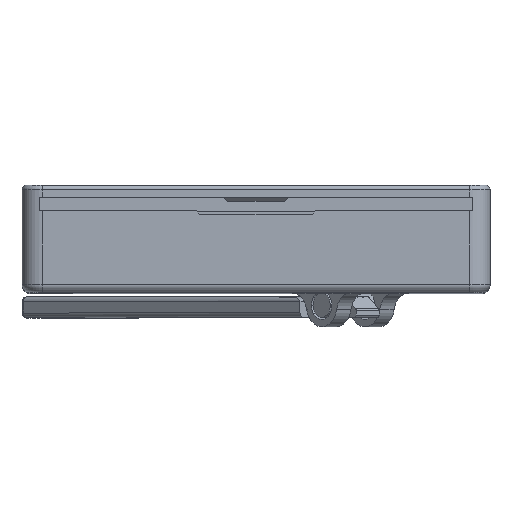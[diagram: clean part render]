
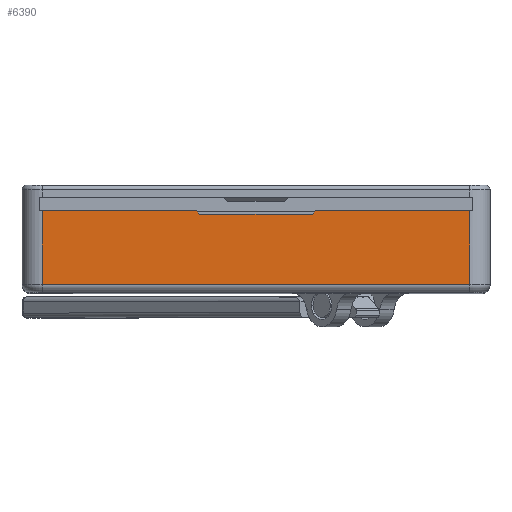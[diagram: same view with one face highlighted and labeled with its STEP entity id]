
A CAD part, top view. The second image highlights one B-rep face of the part: STEP entity #6390.
In plain terms, the highlighted planar face has unit normal (0, 0, 1).
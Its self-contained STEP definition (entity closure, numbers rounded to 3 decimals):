
#1871=DIRECTION('',(-0.707,0.707,0.));
#1872=VECTOR('',#1871,1.273);
#1873=CARTESIAN_POINT('',(-13.8,19.2,82.5));
#1874=LINE('',#1873,#1872);
#1887=DIRECTION('',(-0.707,-0.707,0.));
#1888=VECTOR('',#1887,1.273);
#1889=CARTESIAN_POINT('',(14.7,20.1,82.5));
#1890=LINE('',#1889,#1888);
#1895=DIRECTION('',(1.,0.,0.));
#1896=VECTOR('',#1895,27.6);
#1897=CARTESIAN_POINT('',(-13.8,19.2,82.5));
#1898=LINE('',#1897,#1896);
#1899=DIRECTION('',(1.,0.,0.));
#1900=VECTOR('',#1899,37.8);
#1901=CARTESIAN_POINT('',(14.7,20.1,82.5));
#1902=LINE('',#1901,#1900);
#1903=DIRECTION('',(-1.,0.,0.));
#1904=VECTOR('',#1903,105.);
#1905=CARTESIAN_POINT('',(52.5,2.,82.5));
#1906=LINE('',#1905,#1904);
#1907=DIRECTION('',(0.,1.,0.));
#1908=VECTOR('',#1907,18.1);
#1909=CARTESIAN_POINT('',(-52.5,2.,82.5));
#1910=LINE('',#1909,#1908);
#1911=DIRECTION('',(1.,0.,0.));
#1912=VECTOR('',#1911,37.8);
#1913=CARTESIAN_POINT('',(-52.5,20.1,82.5));
#1914=LINE('',#1913,#1912);
#1941=DIRECTION('',(0.,1.,0.));
#1942=VECTOR('',#1941,18.1);
#1943=CARTESIAN_POINT('',(52.5,2.,82.5));
#1944=LINE('',#1943,#1942);
#3781=CARTESIAN_POINT('',(-52.5,2.,82.5));
#3782=VERTEX_POINT('',#3781);
#3785=CARTESIAN_POINT('',(52.5,2.,82.5));
#3786=VERTEX_POINT('',#3785);
#3933=CARTESIAN_POINT('',(-13.8,19.2,82.5));
#3935=VERTEX_POINT('',#3933);
#3937=CARTESIAN_POINT('',(13.8,19.2,82.5));
#3939=VERTEX_POINT('',#3937);
#3973=CARTESIAN_POINT('',(-52.5,20.1,82.5));
#3974=VERTEX_POINT('',#3973);
#3975=CARTESIAN_POINT('',(52.5,20.1,82.5));
#3976=VERTEX_POINT('',#3975);
#3977=CARTESIAN_POINT('',(-14.7,20.1,82.5));
#3979=VERTEX_POINT('',#3977);
#3981=CARTESIAN_POINT('',(14.7,20.1,82.5));
#3983=VERTEX_POINT('',#3981);
#6372=CARTESIAN_POINT('',(-57.5,0.,82.5));
#6373=DIRECTION('',(0.,0.,1.));
#6374=DIRECTION('',(1.,0.,0.));
#6375=AXIS2_PLACEMENT_3D('',#6372,#6373,#6374);
#6376=PLANE('',#6375);
#6377=ORIENTED_EDGE('',*,*,#6354,.T.);
#6378=ORIENTED_EDGE('',*,*,#6365,.F.);
#6379=ORIENTED_EDGE('',*,*,#6317,.T.);
#6381=ORIENTED_EDGE('',*,*,#6380,.F.);
#6383=ORIENTED_EDGE('',*,*,#6382,.T.);
#6385=ORIENTED_EDGE('',*,*,#6384,.T.);
#6386=ORIENTED_EDGE('',*,*,#6305,.T.);
#6387=ORIENTED_EDGE('',*,*,#6338,.F.);
#6388=EDGE_LOOP('',(#6377,#6378,#6379,#6381,#6383,#6385,#6386,#6387));
#6389=FACE_OUTER_BOUND('',#6388,.F.);
#6390=ADVANCED_FACE('',(#6389),#6376,.T.);
#6305=EDGE_CURVE('',#3974,#3979,#1914,.T.);
#6317=EDGE_CURVE('',#3983,#3976,#1902,.T.);
#6338=EDGE_CURVE('',#3935,#3979,#1874,.T.);
#6354=EDGE_CURVE('',#3935,#3939,#1898,.T.);
#6365=EDGE_CURVE('',#3983,#3939,#1890,.T.);
#6380=EDGE_CURVE('',#3786,#3976,#1944,.T.);
#6382=EDGE_CURVE('',#3786,#3782,#1906,.T.);
#6384=EDGE_CURVE('',#3782,#3974,#1910,.T.);
